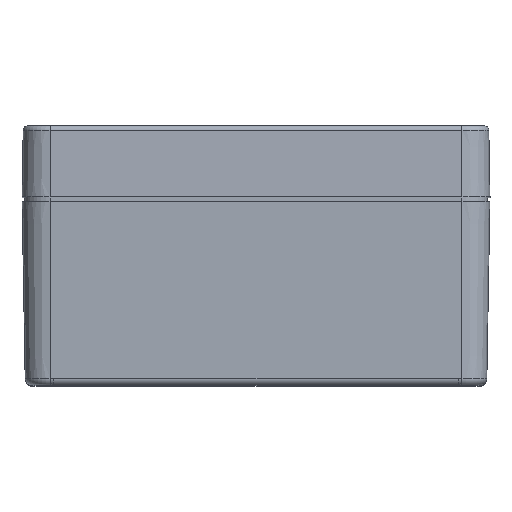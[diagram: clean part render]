
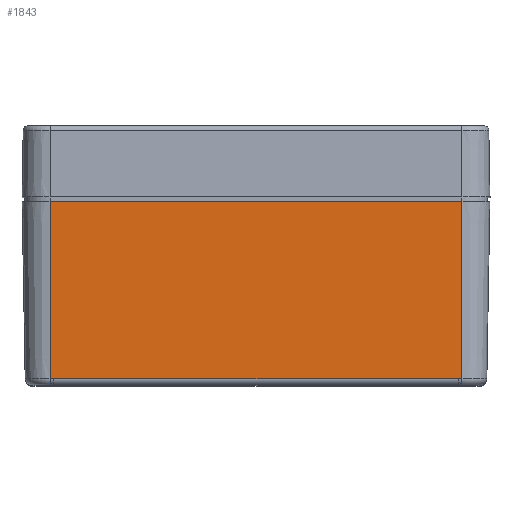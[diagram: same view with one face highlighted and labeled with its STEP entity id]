
A CAD part, top view. The second image highlights one B-rep face of the part: STEP entity #1843.
In plain terms, the highlighted planar face has unit normal (0, -0.018, 1).
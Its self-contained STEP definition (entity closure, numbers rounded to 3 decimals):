
#142 = CARTESIAN_POINT ( 'NONE',  ( 43.226, -38.826, 49.322 ) ) ;
#1564 = VERTEX_POINT ( 'NONE', #28623 ) ;
#1843 = ADVANCED_FACE ( 'NONE', ( #21052 ), #41991, .T. ) ;
#3708 = VECTOR ( 'NONE', #33121, 1000. ) ;
#4634 = ORIENTED_EDGE ( 'NONE', *, *, #23921, .F. ) ;
#4645 = B_SPLINE_CURVE_WITH_KNOTS ( 'NONE', 3,
 ( #21389, #32205, #38344, #6611, #27765, #20707, #35727 ),
 .UNSPECIFIED., .F., .F.,
 ( 4, 3, 4 ),
 ( 0., 0.001, 0.001 ),
 .UNSPECIFIED. ) ;
#4899 = LINE ( 'NONE', #40408, #3708 ) ;
#5445 = DIRECTION ( 'NONE',  ( -1., 0., 0. ) ) ;
#6176 = ORIENTED_EDGE ( 'NONE', *, *, #26968, .T. ) ;
#6430 = B_SPLINE_CURVE_WITH_KNOTS ( 'NONE', 3,
 ( #142, #10494, #14707, #39627, #28356, #32111, #14476 ),
 .UNSPECIFIED., .F., .F.,
 ( 4, 3, 4 ),
 ( 0., 0., 0.001 ),
 .UNSPECIFIED. ) ;
#6611 = CARTESIAN_POINT ( 'NONE',  ( -43.45, -38.827, 49.322 ) ) ;
#7071 = VERTEX_POINT ( 'NONE', #8533 ) ;
#8525 = ORIENTED_EDGE ( 'NONE', *, *, #32628, .T. ) ;
#8533 = CARTESIAN_POINT ( 'NONE',  ( -44., -1., 49.983 ) ) ;
#10494 = CARTESIAN_POINT ( 'NONE',  ( 43.301, -38.826, 49.322 ) ) ;
#12141 = VERTEX_POINT ( 'NONE', #22829 ) ;
#13194 = EDGE_CURVE ( 'NONE', #39473, #7071, #19553, .T. ) ;
#14476 = CARTESIAN_POINT ( 'NONE',  ( 44., -38.828, 49.322 ) ) ;
#14707 = CARTESIAN_POINT ( 'NONE',  ( 43.376, -38.826, 49.322 ) ) ;
#16385 = CARTESIAN_POINT ( 'NONE',  ( 44., -38.826, 49.322 ) ) ;
#16486 = EDGE_LOOP ( 'NONE', ( #45140, #24637, #4634, #19248, #8525, #6176 ) ) ;
#16715 = CARTESIAN_POINT ( 'NONE',  ( 44., -1., 49.983 ) ) ;
#17438 = EDGE_CURVE ( 'NONE', #22221, #39473, #23663, .T. ) ;
#19096 = CARTESIAN_POINT ( 'NONE',  ( 44., -38.828, 49.322 ) ) ;
#19248 = ORIENTED_EDGE ( 'NONE', *, *, #30156, .T. ) ;
#19553 = LINE ( 'NONE', #16715, #23168 ) ;
#20707 = CARTESIAN_POINT ( 'NONE',  ( -43.301, -38.826, 49.322 ) ) ;
#21052 = FACE_OUTER_BOUND ( 'NONE', #16486, .T. ) ;
#21389 = CARTESIAN_POINT ( 'NONE',  ( -44., -38.828, 49.322 ) ) ;
#22221 = VERTEX_POINT ( 'NONE', #19096 ) ;
#22829 = CARTESIAN_POINT ( 'NONE',  ( -44., -38.828, 49.322 ) ) ;
#23168 = VECTOR ( 'NONE', #5445, 1000. ) ;
#23663 = LINE ( 'NONE', #27662, #40900 ) ;
#23921 = EDGE_CURVE ( 'NONE', #12141, #7071, #4899, .T. ) ;
#24637 = ORIENTED_EDGE ( 'NONE', *, *, #13194, .T. ) ;
#25639 = CARTESIAN_POINT ( 'NONE',  ( -43.226, -38.826, 49.322 ) ) ;
#26968 = EDGE_CURVE ( 'NONE', #1564, #22221, #6430, .T. ) ;
#27178 = DIRECTION ( 'NONE',  ( 0., -0.017, 1. ) ) ;
#27287 = VERTEX_POINT ( 'NONE', #25639 ) ;
#27662 = CARTESIAN_POINT ( 'NONE',  ( 44., 0., 50. ) ) ;
#27765 = CARTESIAN_POINT ( 'NONE',  ( -43.376, -38.826, 49.322 ) ) ;
#28094 = CARTESIAN_POINT ( 'NONE',  ( 44., 0., 50. ) ) ;
#28356 = CARTESIAN_POINT ( 'NONE',  ( 43.634, -38.827, 49.322 ) ) ;
#28623 = CARTESIAN_POINT ( 'NONE',  ( 43.226, -38.826, 49.322 ) ) ;
#30156 = EDGE_CURVE ( 'NONE', #12141, #27287, #4645, .T. ) ;
#32111 = CARTESIAN_POINT ( 'NONE',  ( 43.817, -38.828, 49.322 ) ) ;
#32205 = CARTESIAN_POINT ( 'NONE',  ( -43.817, -38.828, 49.322 ) ) ;
#32628 = EDGE_CURVE ( 'NONE', #27287, #1564, #41556, .T. ) ;
#33121 = DIRECTION ( 'NONE',  ( 0., 1., 0.017 ) ) ;
#35727 = CARTESIAN_POINT ( 'NONE',  ( -43.226, -38.826, 49.322 ) ) ;
#38344 = CARTESIAN_POINT ( 'NONE',  ( -43.634, -38.827, 49.322 ) ) ;
#38481 = CARTESIAN_POINT ( 'NONE',  ( 44., -1., 49.983 ) ) ;
#39001 = VECTOR ( 'NONE', #44603, 1000. ) ;
#39473 = VERTEX_POINT ( 'NONE', #38481 ) ;
#39627 = CARTESIAN_POINT ( 'NONE',  ( 43.45, -38.827, 49.322 ) ) ;
#40344 = AXIS2_PLACEMENT_3D ( 'NONE', #28094, #27178, #42442 ) ;
#40408 = CARTESIAN_POINT ( 'NONE',  ( -44., 0., 50. ) ) ;
#40900 = VECTOR ( 'NONE', #45291, 1000. ) ;
#41556 = LINE ( 'NONE', #16385, #39001 ) ;
#41991 = PLANE ( 'NONE',  #40344 ) ;
#42442 = DIRECTION ( 'NONE',  ( 0., -1., -0.017 ) ) ;
#44603 = DIRECTION ( 'NONE',  ( 1., 0., 0. ) ) ;
#45140 = ORIENTED_EDGE ( 'NONE', *, *, #17438, .T. ) ;
#45291 = DIRECTION ( 'NONE',  ( 0., 1., 0.017 ) ) ;
